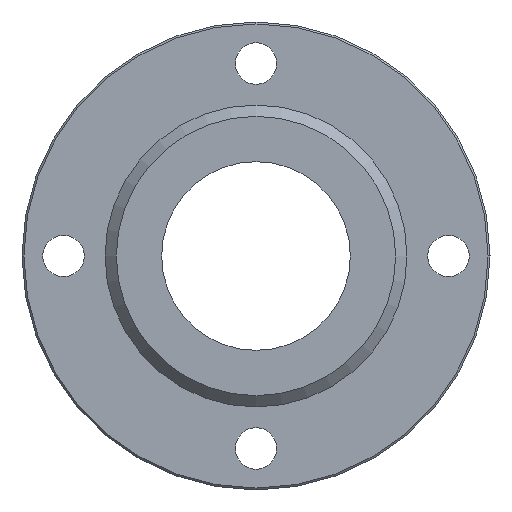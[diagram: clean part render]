
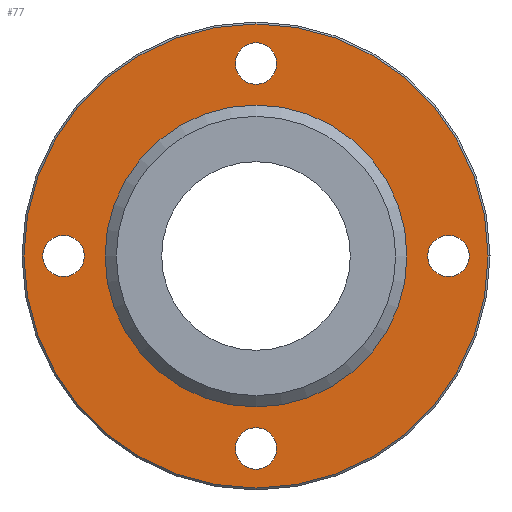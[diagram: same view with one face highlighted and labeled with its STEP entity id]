
A CAD part, left-side view. The second image highlights one B-rep face of the part: STEP entity #77.
In plain terms, the highlighted planar face has unit normal (-1, 0, 0).
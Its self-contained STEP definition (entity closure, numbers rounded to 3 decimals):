
#77=ADVANCED_FACE('',(#103,#104,#105,#106,#107,#108),#109,.F.);
#103=FACE_BOUND('',#174,.T.);
#104=FACE_BOUND('',#175,.T.);
#105=FACE_BOUND('',#176,.T.);
#106=FACE_BOUND('',#177,.T.);
#107=FACE_BOUND('',#178,.T.);
#108=FACE_OUTER_BOUND('',#179,.T.);
#109=PLANE('',#180);
#174=EDGE_LOOP('',(#249));
#175=EDGE_LOOP('',(#250));
#176=EDGE_LOOP('',(#251));
#177=EDGE_LOOP('',(#252));
#178=EDGE_LOOP('',(#253));
#179=EDGE_LOOP('',(#254));
#180=AXIS2_PLACEMENT_3D('',#255,#256,#257);
#249=ORIENTED_EDGE('',*,*,#355,.T.);
#250=ORIENTED_EDGE('',*,*,#356,.T.);
#251=ORIENTED_EDGE('',*,*,#357,.T.);
#252=ORIENTED_EDGE('',*,*,#358,.T.);
#253=ORIENTED_EDGE('',*,*,#359,.T.);
#254=ORIENTED_EDGE('',*,*,#354,.F.);
#255=CARTESIAN_POINT('',(-11.0,20.0,0.0));
#256=DIRECTION('',(1.0,0.0,0.0));
#257=DIRECTION('',(0.0,0.0,-1.0));
#354=EDGE_CURVE('',#381,#381,#382,.T.);
#355=EDGE_CURVE('',#383,#383,#384,.T.);
#356=EDGE_CURVE('',#385,#385,#386,.T.);
#357=EDGE_CURVE('',#387,#387,#388,.T.);
#358=EDGE_CURVE('',#389,#389,#390,.T.);
#359=EDGE_CURVE('',#391,#391,#392,.T.);
#381=VERTEX_POINT('',#431);
#382=CIRCLE('',#432,30.746);
#383=VERTEX_POINT('',#433);
#384=CIRCLE('',#434,20.0);
#385=VERTEX_POINT('',#435);
#386=CIRCLE('',#436,2.75);
#387=VERTEX_POINT('',#437);
#388=CIRCLE('',#438,2.75);
#389=VERTEX_POINT('',#439);
#390=CIRCLE('',#440,2.75);
#391=VERTEX_POINT('',#441);
#392=CIRCLE('',#442,2.75);
#431=CARTESIAN_POINT('',(-11.0,0.0,-30.746));
#432=AXIS2_PLACEMENT_3D('',#483,#484,#485);
#433=CARTESIAN_POINT('',(-11.0,0.0,-20.0));
#434=AXIS2_PLACEMENT_3D('',#486,#487,#488);
#435=CARTESIAN_POINT('',(-11.0,25.5,-2.75));
#436=AXIS2_PLACEMENT_3D('',#489,#490,#491);
#437=CARTESIAN_POINT('',(-11.0,0.0,-28.25));
#438=AXIS2_PLACEMENT_3D('',#492,#493,#494);
#439=CARTESIAN_POINT('',(-11.0,-25.5,-2.75));
#440=AXIS2_PLACEMENT_3D('',#495,#496,#497);
#441=CARTESIAN_POINT('',(-11.0,0.0,22.75));
#442=AXIS2_PLACEMENT_3D('',#498,#499,#500);
#483=CARTESIAN_POINT('',(-11.0,0.0,0.0));
#484=DIRECTION('',(1.0,0.0,0.0));
#485=DIRECTION('',(0.0,0.0,-1.0));
#486=CARTESIAN_POINT('',(-11.0,0.0,0.0));
#487=DIRECTION('',(1.0,0.0,0.0));
#488=DIRECTION('',(0.0,0.0,-1.0));
#489=CARTESIAN_POINT('',(-11.0,25.5,0.0));
#490=DIRECTION('',(1.0,0.0,0.0));
#491=DIRECTION('',(0.0,0.0,-1.0));
#492=CARTESIAN_POINT('',(-11.0,0.0,-25.5));
#493=DIRECTION('',(1.0,0.0,0.0));
#494=DIRECTION('',(0.0,0.0,-1.0));
#495=CARTESIAN_POINT('',(-11.0,-25.5,0.0));
#496=DIRECTION('',(1.0,0.0,0.0));
#497=DIRECTION('',(0.0,0.0,-1.0));
#498=CARTESIAN_POINT('',(-11.0,0.0,25.5));
#499=DIRECTION('',(1.0,0.0,0.0));
#500=DIRECTION('',(0.0,0.0,-1.0));
